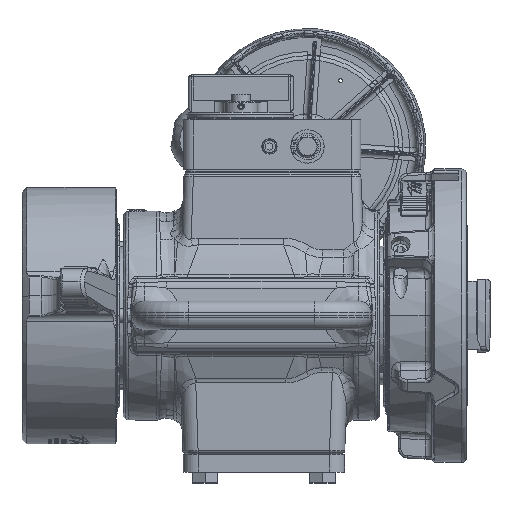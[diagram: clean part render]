
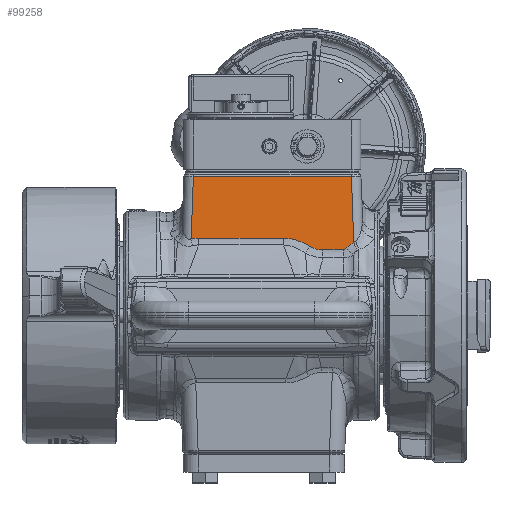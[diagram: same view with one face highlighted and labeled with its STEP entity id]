
A CAD part, top view. The second image highlights one B-rep face of the part: STEP entity #99258.
In plain terms, the highlighted planar face has unit normal (0, 0.035, 0.999).
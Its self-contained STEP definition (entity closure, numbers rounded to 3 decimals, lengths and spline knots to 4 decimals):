
#4957 = FACE_OUTER_BOUND ( 'NONE', #139531, .T. ) ;
#21233 = AXIS2_PLACEMENT_3D ( 'NONE', #81301, #81430, #81431 ) ;
#52952 = B_SPLINE_CURVE_WITH_KNOTS ( 'NONE', 3,
 ( #105979, #105978, #105916, #105980, #105981, #105982, #105983, #105984 ),
 .UNSPECIFIED., .F., .F.,
 ( 4, 2, 2, 4 ),
 ( 0., 0.0017, 0.0034, 0.0067 ),
 .UNSPECIFIED. ) ;
#52990 = B_SPLINE_CURVE_WITH_KNOTS ( 'NONE', 3,
 ( #106158, #106145, #106156, #106160, #106162, #106164, #106165, #106167, #106169, #106171, #106173, #106175 ),
 .UNSPECIFIED., .F., .F.,
 ( 4, 2, 2, 2, 2, 4 ),
 ( 0., 0.0046, 0.007, 0.0093, 0.0139, 0.0186 ),
 .UNSPECIFIED. ) ;
#53011 = B_SPLINE_CURVE_WITH_KNOTS ( 'NONE', 3,
 ( #106291, #106287, #106298, #106299, #106301, #106303, #106305, #106307, #106309, #106311 ),
 .UNSPECIFIED., .F., .F.,
 ( 4, 2, 2, 2, 4 ),
 ( 0., 0.0005, 0.001, 0.0015, 0.0021 ),
 .UNSPECIFIED. ) ;
#53015 = B_SPLINE_CURVE_WITH_KNOTS ( 'NONE', 3,
 ( #106312, #106285, #106317, #106319 ),
 .UNSPECIFIED., .F., .F.,
 ( 4, 4 ),
 ( 0., 0.005 ),
 .UNSPECIFIED. ) ;
#53024 = B_SPLINE_CURVE_WITH_KNOTS ( 'NONE', 3,
 ( #106349, #106345, #106356, #106357, #106359, #106361 ),
 .UNSPECIFIED., .F., .F.,
 ( 4, 2, 4 ),
 ( 0., 0.0046, 0.0092 ),
 .UNSPECIFIED. ) ;
#61035 = EDGE_CURVE ( 'NONE', #62025, #62037, #52952, .T. ) ;
#61037 = EDGE_CURVE ( 'NONE', #62038, #62034, #143910, .T. ) ;
#61063 = EDGE_CURVE ( 'NONE', #62029, #62026, #52990, .T. ) ;
#61080 = EDGE_CURVE ( 'NONE', #62028, #62029, #143940, .T. ) ;
#61082 = EDGE_CURVE ( 'NONE', #62024, #62025, #53011, .T. ) ;
#61084 = EDGE_CURVE ( 'NONE', #62034, #62028, #53015, .T. ) ;
#61090 = EDGE_CURVE ( 'NONE', #62035, #62038, #143967, .T. ) ;
#61097 = EDGE_CURVE ( 'NONE', #62026, #62027, #53024, .T. ) ;
#61105 = EDGE_CURVE ( 'NONE', #62037, #62035, #143984, .T. ) ;
#61114 = EDGE_CURVE ( 'NONE', #62027, #62024, #143948, .T. ) ;
#61230 = ORIENTED_EDGE ( 'NONE', *, *, #61105, .T. ) ;
#61232 = ORIENTED_EDGE ( 'NONE', *, *, #61090, .T. ) ;
#61234 = ORIENTED_EDGE ( 'NONE', *, *, #61037, .T. ) ;
#61236 = ORIENTED_EDGE ( 'NONE', *, *, #61084, .T. ) ;
#61238 = ORIENTED_EDGE ( 'NONE', *, *, #61080, .T. ) ;
#61239 = ORIENTED_EDGE ( 'NONE', *, *, #61063, .T. ) ;
#61240 = ORIENTED_EDGE ( 'NONE', *, *, #61097, .T. ) ;
#61241 = ORIENTED_EDGE ( 'NONE', *, *, #61114, .T. ) ;
#61242 = ORIENTED_EDGE ( 'NONE', *, *, #61082, .T. ) ;
#61243 = ORIENTED_EDGE ( 'NONE', *, *, #61035, .T. ) ;
#62024 = VERTEX_POINT ( 'NONE', #107235 ) ;
#62025 = VERTEX_POINT ( 'NONE', #107237 ) ;
#62026 = VERTEX_POINT ( 'NONE', #107239 ) ;
#62027 = VERTEX_POINT ( 'NONE', #107241 ) ;
#62028 = VERTEX_POINT ( 'NONE', #107243 ) ;
#62029 = VERTEX_POINT ( 'NONE', #107245 ) ;
#62034 = VERTEX_POINT ( 'NONE', #107254 ) ;
#62035 = VERTEX_POINT ( 'NONE', #107256 ) ;
#62037 = VERTEX_POINT ( 'NONE', #107259 ) ;
#62038 = VERTEX_POINT ( 'NONE', #107261 ) ;
#81301 = CARTESIAN_POINT ( 'NONE',  ( -1.5, 3.75, 2. ) ) ;
#81303 = PLANE ( 'NONE',  #21233 ) ;
#81430 = DIRECTION ( 'NONE',  ( 0., 0.035, 0.999 ) ) ;
#81431 = DIRECTION ( 'NONE',  ( 0., -0.999, 0.035 ) ) ;
#99258 = ADVANCED_FACE ( 'NONE', ( #4957 ), #81303, .T. ) ;
#105916 = CARTESIAN_POINT ( 'NONE',  ( 2.7838, 1.7952, 2.0683 ) ) ;
#105939 = CARTESIAN_POINT ( 'NONE',  ( -1.2505, 3.7413, 2.0003 ) ) ;
#105977 = DIRECTION ( 'NONE',  ( -0.035, -0.999, 0.035 ) ) ;
#105978 = CARTESIAN_POINT ( 'NONE',  ( 2.7688, 1.779, 2.0688 ) ) ;
#105979 = CARTESIAN_POINT ( 'NONE',  ( 2.7545, 1.7621, 2.0694 ) ) ;
#105980 = CARTESIAN_POINT ( 'NONE',  ( 2.8156, 1.8257, 2.0672 ) ) ;
#105981 = CARTESIAN_POINT ( 'NONE',  ( 2.8324, 1.8401, 2.0667 ) ) ;
#105982 = CARTESIAN_POINT ( 'NONE',  ( 2.8848, 1.8796, 2.0653 ) ) ;
#105983 = CARTESIAN_POINT ( 'NONE',  ( 2.9226, 1.9013, 2.0646 ) ) ;
#105984 = CARTESIAN_POINT ( 'NONE',  ( 2.9642, 1.9169, 2.064 ) ) ;
#106145 = CARTESIAN_POINT ( 'NONE',  ( 1.1775, 2.0372, 2.0598 ) ) ;
#106156 = CARTESIAN_POINT ( 'NONE',  ( 1.2383, 2.0315, 2.06 ) ) ;
#106158 = CARTESIAN_POINT ( 'NONE',  ( 1.116, 2.0372, 2.0598 ) ) ;
#106160 = CARTESIAN_POINT ( 'NONE',  ( 1.3286, 2.0159, 2.0606 ) ) ;
#106162 = CARTESIAN_POINT ( 'NONE',  ( 1.3585, 2.0095, 2.0608 ) ) ;
#106164 = CARTESIAN_POINT ( 'NONE',  ( 1.4181, 1.9944, 2.0613 ) ) ;
#106165 = CARTESIAN_POINT ( 'NONE',  ( 1.4474, 1.9859, 2.0616 ) ) ;
#106167 = CARTESIAN_POINT ( 'NONE',  ( 1.5342, 1.9574, 2.0626 ) ) ;
#106169 = CARTESIAN_POINT ( 'NONE',  ( 1.5904, 1.9347, 2.0634 ) ) ;
#106171 = CARTESIAN_POINT ( 'NONE',  ( 1.7004, 1.8832, 2.0652 ) ) ;
#106173 = CARTESIAN_POINT ( 'NONE',  ( 1.754, 1.8544, 2.0662 ) ) ;
#106175 = CARTESIAN_POINT ( 'NONE',  ( 1.8066, 1.823, 2.0673 ) ) ;
#106211 = CARTESIAN_POINT ( 'NONE',  ( 1.0887, 2.0372, 2.0598 ) ) ;
#106285 = CARTESIAN_POINT ( 'NONE',  ( -1.2463, 2.0308, 2.06 ) ) ;
#106287 = CARTESIAN_POINT ( 'NONE',  ( 2.6923, 1.7246, 2.0707 ) ) ;
#106288 = DIRECTION ( 'NONE',  ( 1., 0., 0. ) ) ;
#106291 = CARTESIAN_POINT ( 'NONE',  ( 2.6854, 1.7246, 2.0707 ) ) ;
#106298 = CARTESIAN_POINT ( 'NONE',  ( 2.699, 1.7256, 2.0707 ) ) ;
#106299 = CARTESIAN_POINT ( 'NONE',  ( 2.7121, 1.7295, 2.0706 ) ) ;
#106301 = CARTESIAN_POINT ( 'NONE',  ( 2.7182, 1.7322, 2.0705 ) ) ;
#106303 = CARTESIAN_POINT ( 'NONE',  ( 2.7298, 1.7391, 2.0702 ) ) ;
#106305 = CARTESIAN_POINT ( 'NONE',  ( 2.7353, 1.7432, 2.0701 ) ) ;
#106307 = CARTESIAN_POINT ( 'NONE',  ( 2.7455, 1.7521, 2.0698 ) ) ;
#106309 = CARTESIAN_POINT ( 'NONE',  ( 2.7501, 1.7569, 2.0696 ) ) ;
#106311 = CARTESIAN_POINT ( 'NONE',  ( 2.7545, 1.7621, 2.0694 ) ) ;
#106312 = CARTESIAN_POINT ( 'NONE',  ( -1.3106, 2.0189, 2.0604 ) ) ;
#106317 = CARTESIAN_POINT ( 'NONE',  ( -1.1815, 2.0372, 2.0598 ) ) ;
#106319 = CARTESIAN_POINT ( 'NONE',  ( -1.116, 2.0372, 2.0598 ) ) ;
#106325 = CARTESIAN_POINT ( 'NONE',  ( -1.2526, 3.6542, 2.0033 ) ) ;
#106328 = DIRECTION ( 'NONE',  ( -1., 0., 0. ) ) ;
#106345 = CARTESIAN_POINT ( 'NONE',  ( 1.8589, 1.7917, 2.0684 ) ) ;
#106349 = CARTESIAN_POINT ( 'NONE',  ( 1.8066, 1.823, 2.0673 ) ) ;
#106356 = CARTESIAN_POINT ( 'NONE',  ( 1.9141, 1.767, 2.0692 ) ) ;
#106357 = CARTESIAN_POINT ( 'NONE',  ( 2.0313, 1.733, 2.0704 ) ) ;
#106359 = CARTESIAN_POINT ( 'NONE',  ( 2.0912, 1.7246, 2.0707 ) ) ;
#106361 = CARTESIAN_POINT ( 'NONE',  ( 2.1523, 1.7246, 2.0707 ) ) ;
#106401 = CARTESIAN_POINT ( 'NONE',  ( 2.8948, 3.9033, 1.9946 ) ) ;
#106414 = DIRECTION ( 'NONE',  ( -0.035, 0.999, -0.035 ) ) ;
#106434 = CARTESIAN_POINT ( 'NONE',  ( 2.6854, 1.7246, 2.0707 ) ) ;
#106440 = DIRECTION ( 'NONE',  ( 1., 0., 0. ) ) ;
#107235 = CARTESIAN_POINT ( 'NONE',  ( 2.6854, 1.7246, 2.0707 ) ) ;
#107237 = CARTESIAN_POINT ( 'NONE',  ( 2.7545, 1.7621, 2.0694 ) ) ;
#107239 = CARTESIAN_POINT ( 'NONE',  ( 1.8066, 1.823, 2.0673 ) ) ;
#107241 = CARTESIAN_POINT ( 'NONE',  ( 2.1523, 1.7246, 2.0707 ) ) ;
#107243 = CARTESIAN_POINT ( 'NONE',  ( -1.116, 2.0372, 2.0598 ) ) ;
#107245 = CARTESIAN_POINT ( 'NONE',  ( 1.116, 2.0372, 2.0598 ) ) ;
#107254 = CARTESIAN_POINT ( 'NONE',  ( -1.3106, 2.0189, 2.0604 ) ) ;
#107256 = CARTESIAN_POINT ( 'NONE',  ( 2.9035, 3.6542, 2.0033 ) ) ;
#107259 = CARTESIAN_POINT ( 'NONE',  ( 2.9642, 1.9169, 2.064 ) ) ;
#107261 = CARTESIAN_POINT ( 'NONE',  ( -1.2535, 3.6542, 2.0033 ) ) ;
#139531 = EDGE_LOOP ( 'NONE', ( #61230, #61232, #61234, #61236, #61238, #61239, #61240, #61241, #61242, #61243 ) ) ;
#143910 = LINE ( 'NONE', #105939, #143925 ) ;
#143925 = VECTOR ( 'NONE', #105977, 39.3701 ) ;
#143940 = LINE ( 'NONE', #106211, #143958 ) ;
#143948 = LINE ( 'NONE', #106434, #144003 ) ;
#143958 = VECTOR ( 'NONE', #106288, 39.3701 ) ;
#143967 = LINE ( 'NONE', #106325, #143970 ) ;
#143970 = VECTOR ( 'NONE', #106328, 39.3701 ) ;
#143984 = LINE ( 'NONE', #106401, #143994 ) ;
#143994 = VECTOR ( 'NONE', #106414, 39.3701 ) ;
#144003 = VECTOR ( 'NONE', #106440, 39.3701 ) ;
